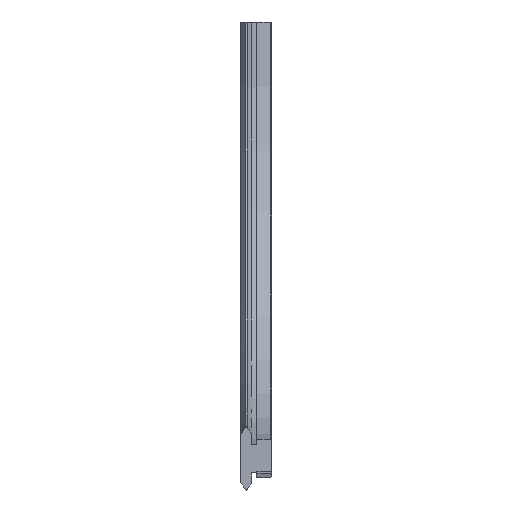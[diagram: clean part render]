
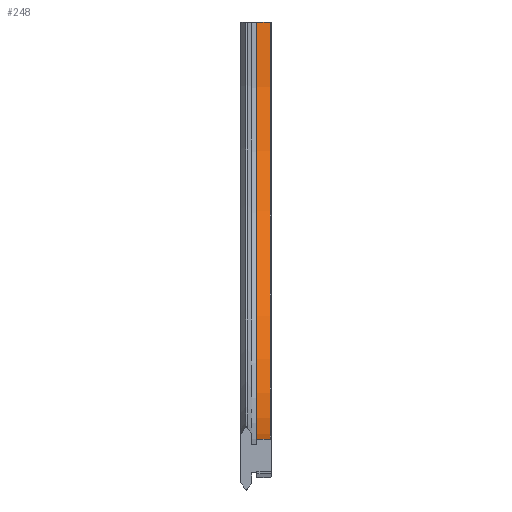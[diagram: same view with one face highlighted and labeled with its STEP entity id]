
A CAD part, left-side view. The second image highlights one B-rep face of the part: STEP entity #248.
In plain terms, the highlighted cylindrical face has radius 167.8 mm (diameter 335.6 mm), a partial arc.
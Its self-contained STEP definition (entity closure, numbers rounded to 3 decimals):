
#248 = ADVANCED_FACE( '', ( #1134 ), #1135, .F. );
#1134 = FACE_OUTER_BOUND( '', #2576, .T. );
#1135 = CYLINDRICAL_SURFACE( '', #2577, 167.8 );
#2576 = EDGE_LOOP( '', ( #5235, #5236, #5237, #5238 ) );
#2577 = AXIS2_PLACEMENT_3D( '', #5239, #5240, #5241 );
#5235 = ORIENTED_EDGE( '', *, *, #10554, .T. );
#5236 = ORIENTED_EDGE( '', *, *, #10555, .T. );
#5237 = ORIENTED_EDGE( '', *, *, #10556, .F. );
#5238 = ORIENTED_EDGE( '', *, *, #9583, .T. );
#5239 = CARTESIAN_POINT( '', ( 0., 0., 0. ) );
#5240 = DIRECTION( '', ( 0., 1., 0. ) );
#5241 = DIRECTION( '', ( 0., 0., -1. ) );
#9583 = EDGE_CURVE( '', #11477, #11475, #11478, .T. );
#10554 = EDGE_CURVE( '', #11475, #13359, #13361, .T. );
#10555 = EDGE_CURVE( '', #13359, #13362, #13363, .F. );
#10556 = EDGE_CURVE( '', #11477, #13362, #13364, .T. );
#11475 = VERTEX_POINT( '', #14553 );
#11477 = VERTEX_POINT( '', #14558 );
#11478 = LINE( '', #14559, #14560 );
#13359 = VERTEX_POINT( '', #17763 );
#13361 = CIRCLE( '', #17768, 167.8 );
#13362 = VERTEX_POINT( '', #17769 );
#13363 = LINE( '', #17770, #17771 );
#13364 = CIRCLE( '', #17772, 167.8 );
#14553 = CARTESIAN_POINT( '', ( 1., 0.5, -167.797 ) );
#14558 = CARTESIAN_POINT( '', ( 1., 5.75, -167.797 ) );
#14559 = CARTESIAN_POINT( '', ( 1., 0., -167.797 ) );
#14560 = VECTOR( '', #19364, 1000. );
#17763 = CARTESIAN_POINT( '', ( 167.797, 0.5, -1. ) );
#17768 = AXIS2_PLACEMENT_3D( '', #20165, #20166, #20167 );
#17769 = CARTESIAN_POINT( '', ( 167.797, 5.75, -1. ) );
#17770 = CARTESIAN_POINT( '', ( 167.797, 0., -1. ) );
#17771 = VECTOR( '', #20168, 1000. );
#17772 = AXIS2_PLACEMENT_3D( '', #20169, #20170, #20171 );
#19364 = DIRECTION( '', ( 0., -1., 0. ) );
#20165 = CARTESIAN_POINT( '', ( 0., 0.5, 0. ) );
#20166 = DIRECTION( '', ( 0., -1., 0. ) );
#20167 = DIRECTION( '', ( 0., 0., -1. ) );
#20168 = DIRECTION( '', ( 0., -1., 0. ) );
#20169 = CARTESIAN_POINT( '', ( 0., 5.75, 0. ) );
#20170 = DIRECTION( '', ( 0., -1., 0. ) );
#20171 = DIRECTION( '', ( 0., 0., -1. ) );
